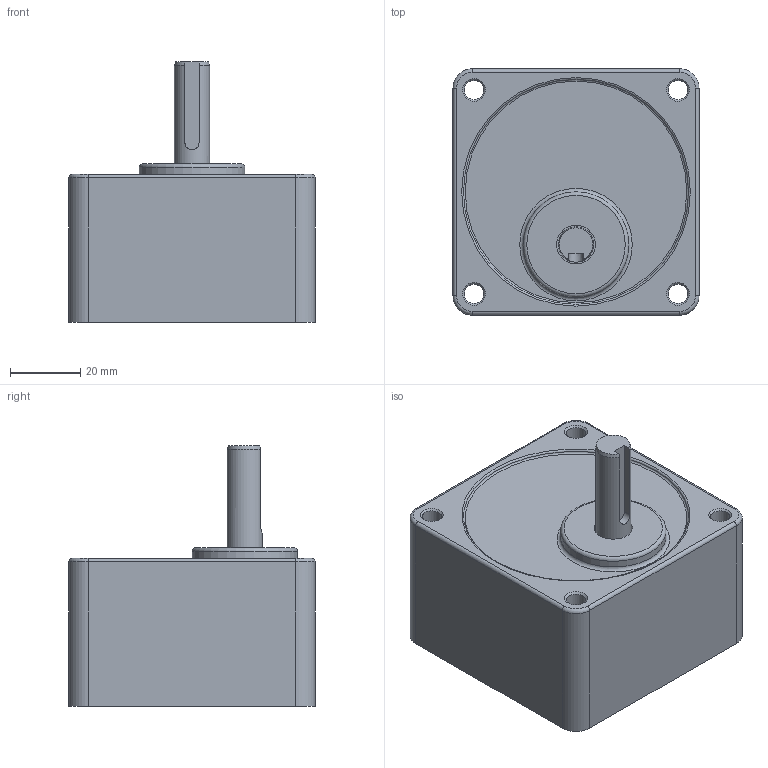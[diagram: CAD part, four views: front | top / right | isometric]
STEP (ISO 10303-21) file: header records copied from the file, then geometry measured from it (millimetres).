
FILE_DESCRIPTION((''),'2;1');
FILE_NAME('\\192.168.2.97\고객배포용도면\3D\Small Standard Series\GEAR HEAD\GEAR HEAD\15W\S7KA20~200.stp','2013-11-27T13:46:37',('jy-jung'),(''),'Autodesk Inventor 2011','Autodesk Inventor 2011','');
FILE_SCHEMA(('AUTOMOTIVE_DESIGN { 1 0 10303 214 1 1 1 1 }'));
Length unit declared in the file: millimetre
Products named in the file (1): 부품26
Bounding box: 70 x 70 x 74 mm (x, y, z)
Volume: 185613.9 mm3; surface area: 26678.4 mm2
Topology: 1 solids, 1 shells, 46 faces, 104 edges, 66 vertices
Faces by surface type: cylinder 18, plane 15, torus 8, cone 5
Full cylindrical faces by diameter (mm): 5.5 x4, 7 x1, 10 x1, 11 x1, 30 x1, 64 x1
Entity records: 1228 total; most frequent: DIRECTION 221, CARTESIAN_POINT 212, ORIENTED_EDGE 164, AXIS2_PLACEMENT_3D 96, EDGE_CURVE 82, EDGE_LOOP 77, VERTEX_POINT 61, CIRCLE 49
